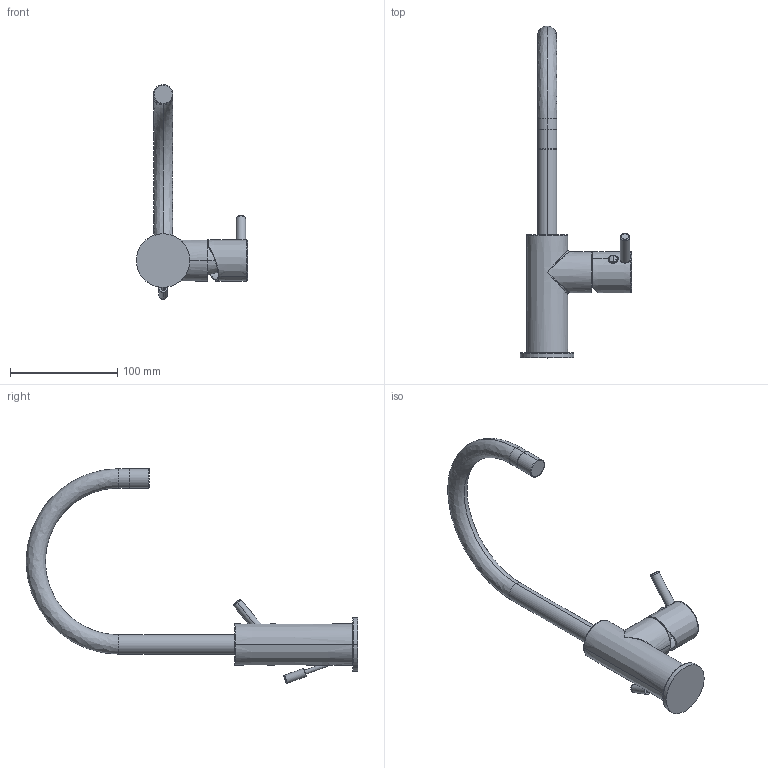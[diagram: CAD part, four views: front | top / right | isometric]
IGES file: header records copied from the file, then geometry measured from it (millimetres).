
Start section:  PTC IGES file: 12051.igs
Global section: file name: 12051.igs; native system: Creo Parametric by PTC Inc.; preprocessor: 2022014; author: carloff; organization: Unknown; date: 20250226.101656; units: millimetre
Bounding box: 103.8 x 309.5 x 200.16 mm (x, y, z)
Surface area: 57930.6 mm2 (no closed solid volume)
Topology: 0 solids, 0 shells, 229 faces, 1110 edges, 1096 vertices
Faces by surface type: revolution 134, bspline 95
